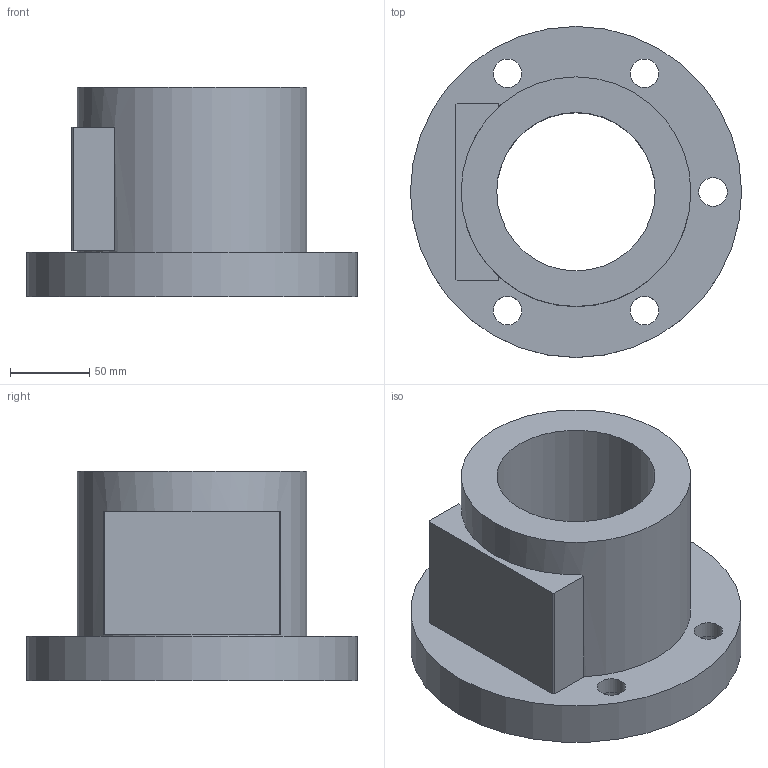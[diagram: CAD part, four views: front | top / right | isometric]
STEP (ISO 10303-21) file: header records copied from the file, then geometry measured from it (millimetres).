
FILE_DESCRIPTION(/* description */ (''),/* implementation_level */ '2;1');
FILE_NAME(/* name */ '100-12B2',/* time_stamp */ '2006-07-31T13:03:14+08:00',/* author */ (''),/* organization */ (''),/* preprocessor_version */ 'ST-DEVELOPER v9',/* originating_system */ 'UGS - NX 4.0',/* authorisation */ '');
FILE_SCHEMA (('CONFIG_CONTROL_DESIGN'));
Length unit declared in the file: millimetre
Products named in the file (1): 100-12B2
Bounding box: 209 x 209 x 132 mm (x, y, z)
Volume: 1681685 mm3; surface area: 174162 mm2
Topology: 1 solids, 1 shells, 30 faces, 67 edges, 46 vertices
Faces by surface type: plane 17, cylinder 13
Full cylindrical faces by diameter (mm): 18 x5, 26 x5, 100 x1, 145 x1, 209 x1
Entity records: 860 total; most frequent: DIRECTION 140, CARTESIAN_POINT 123, ORIENTED_EDGE 100, EDGE_LOOP 62, AXIS2_PLACEMENT_3D 59, EDGE_CURVE 50, FACE_BOUND 45, VERTEX_POINT 42
